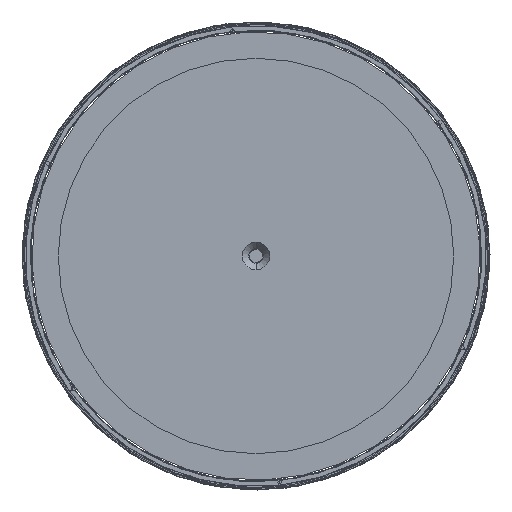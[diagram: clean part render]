
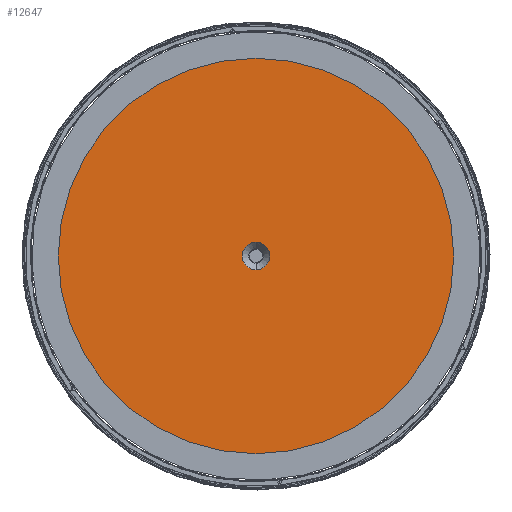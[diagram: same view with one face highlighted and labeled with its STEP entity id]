
A CAD part, front view. The second image highlights one B-rep face of the part: STEP entity #12647.
In plain terms, the highlighted planar face has unit normal (0, -1, 0).
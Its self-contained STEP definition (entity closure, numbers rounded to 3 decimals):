
#182 = FACE_OUTER_BOUND ( 'NONE', #14560, .T. ) ;
#1287 = DIRECTION ( 'NONE',  ( 0., 1., 0. ) ) ;
#2747 = CARTESIAN_POINT ( 'NONE',  ( 0., 0., 0. ) ) ;
#2755 = EDGE_CURVE ( 'NONE', #5988, #3392, #4682, .T. ) ;
#3097 = EDGE_LOOP ( 'NONE', ( #16832, #16462 ) ) ;
#3392 = VERTEX_POINT ( 'NONE', #18296 ) ;
#3515 = AXIS2_PLACEMENT_3D ( 'NONE', #19053, #11241, #9655 ) ;
#3670 = CARTESIAN_POINT ( 'NONE',  ( 0., 0., 0. ) ) ;
#4277 = DIRECTION ( 'NONE',  ( 0., 0., 1. ) ) ;
#4283 = AXIS2_PLACEMENT_3D ( 'NONE', #7714, #6168, #10928 ) ;
#4478 = EDGE_CURVE ( 'NONE', #3392, #5988, #11695, .T. ) ;
#4578 = CARTESIAN_POINT ( 'NONE',  ( 0., 0., 10.5 ) ) ;
#4682 = CIRCLE ( 'NONE', #15044, 10.5 ) ;
#4913 = CARTESIAN_POINT ( 'NONE',  ( 0., 0., 0. ) ) ;
#5988 = VERTEX_POINT ( 'NONE', #4578 ) ;
#6168 = DIRECTION ( 'NONE',  ( 0., 1., 0. ) ) ;
#7714 = CARTESIAN_POINT ( 'NONE',  ( 0., 0., 0. ) ) ;
#8217 = ORIENTED_EDGE ( 'NONE', *, *, #13824, .F. ) ;
#8374 = PLANE ( 'NONE',  #11341 ) ;
#8599 = ORIENTED_EDGE ( 'NONE', *, *, #13758, .F. ) ;
#9191 = FACE_BOUND ( 'NONE', #3097, .T. ) ;
#9212 = DIRECTION ( 'NONE',  ( 0., 1., 0. ) ) ;
#9655 = DIRECTION ( 'NONE',  ( 0., 0., 1. ) ) ;
#10193 = CARTESIAN_POINT ( 'NONE',  ( 0., 0., -150. ) ) ;
#10928 = DIRECTION ( 'NONE',  ( 0., 0., 1. ) ) ;
#11241 = DIRECTION ( 'NONE',  ( 0., 1., 0. ) ) ;
#11341 = AXIS2_PLACEMENT_3D ( 'NONE', #3670, #17526, #12778 ) ;
#11695 = CIRCLE ( 'NONE', #3515, 10.5 ) ;
#11844 = VERTEX_POINT ( 'NONE', #13479 ) ;
#12647 = ADVANCED_FACE ( 'NONE', ( #182, #9191 ), #8374, .F. ) ;
#12778 = DIRECTION ( 'NONE',  ( 0., 0., 1. ) ) ;
#13479 = CARTESIAN_POINT ( 'NONE',  ( 0., 0., 150. ) ) ;
#13758 = EDGE_CURVE ( 'NONE', #11844, #17084, #17786, .T. ) ;
#13824 = EDGE_CURVE ( 'NONE', #17084, #11844, #17282, .T. ) ;
#14560 = EDGE_LOOP ( 'NONE', ( #8217, #8599 ) ) ;
#15044 = AXIS2_PLACEMENT_3D ( 'NONE', #2747, #1287, #4277 ) ;
#16462 = ORIENTED_EDGE ( 'NONE', *, *, #2755, .T. ) ;
#16832 = ORIENTED_EDGE ( 'NONE', *, *, #4478, .T. ) ;
#16969 = DIRECTION ( 'NONE',  ( 0., 0., 1. ) ) ;
#17084 = VERTEX_POINT ( 'NONE', #10193 ) ;
#17282 = CIRCLE ( 'NONE', #17486, 150. ) ;
#17486 = AXIS2_PLACEMENT_3D ( 'NONE', #4913, #9212, #16969 ) ;
#17526 = DIRECTION ( 'NONE',  ( 0., 1., 0. ) ) ;
#17786 = CIRCLE ( 'NONE', #4283, 150. ) ;
#18296 = CARTESIAN_POINT ( 'NONE',  ( 0., 0., -10.5 ) ) ;
#19053 = CARTESIAN_POINT ( 'NONE',  ( 0., 0., 0. ) ) ;
